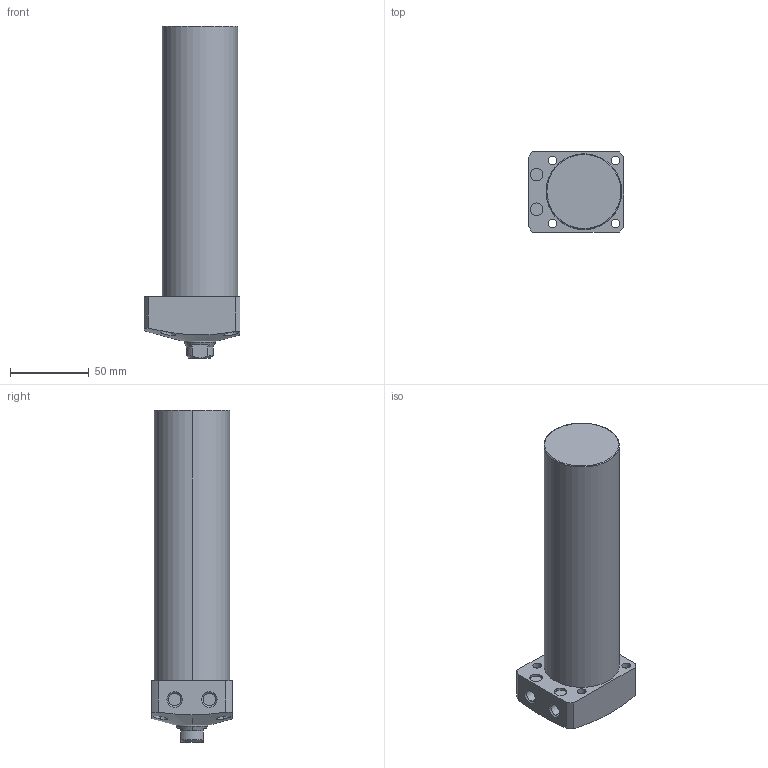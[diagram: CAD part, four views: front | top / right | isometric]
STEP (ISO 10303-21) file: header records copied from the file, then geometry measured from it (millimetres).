
FILE_DESCRIPTION (( 'STEP AP203' ), '1' );
FILE_NAME ('CLL-048CA-145.STEP', '2019-12-21T07:28:45', ( '' ), ( '' ), 'SwSTEP 2.0', 'SolidWorks 2015', '' );
FILE_SCHEMA (( 'CONFIG_CONTROL_DESIGN' ));
Length unit declared in the file: millimetre
Products named in the file (1): CLL-048CA-145
Bounding box: 61 x 51 x 211 mm (x, y, z)
Volume: 385444.2 mm3; surface area: 40713.4 mm2
Topology: 1 solids, 1 shells, 74 faces, 170 edges, 107 vertices
Faces by surface type: cylinder 35, plane 22, cone 15, torus 2
Entity records: 2535 total; most frequent: CARTESIAN_POINT 748, DIRECTION 374, ORIENTED_EDGE 336, EDGE_CURVE 168, AXIS2_PLACEMENT_3D 155, VERTEX_POINT 107, EDGE_LOOP 93, CIRCLE 80
